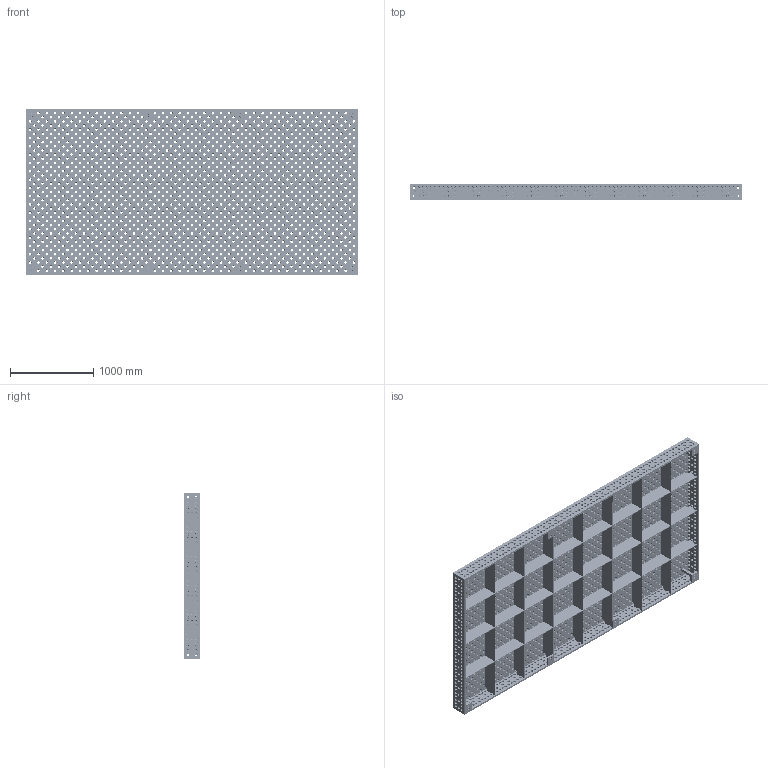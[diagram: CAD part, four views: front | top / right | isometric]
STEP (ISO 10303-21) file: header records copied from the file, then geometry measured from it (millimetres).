
FILE_DESCRIPTION (( 'STEP AP203' ), '1' );
FILE_NAME ('280055.XD7D.T1 - 28005131_28005131_28005132_28003300_______.step', '2022-07-06T09:15:31', ( '' ), ( '' ), 'SwSTEP 2.0', 'SolidWorks 2020', '' );
FILE_SCHEMA (( 'CONFIG_CONTROL_DESIGN' ));
Products named in the file (1): 280055.XD7D.T1 - 28005131_28005131_28005132_28003300_______
Bounding box: 4000 x 200 x 2000 mm (x, y, z)
Volume: 253484657.5 mm3; surface area: 30675346.9 mm2
Topology: 1 solids, 1 shells, 13242 faces, 31168 edges, 17896 vertices
Faces by surface type: cylinder 4380, cone 4362, torus 4270, plane 222, bspline 8
Entity records: 391663 total; most frequent: DIRECTION 79284, CARTESIAN_POINT 63647, ORIENTED_EDGE 62336, AXIS2_PLACEMENT_3D 34897, EDGE_CURVE 31168, CIRCLE 21662, VERTEX_POINT 17896, EDGE_LOOP 17612
